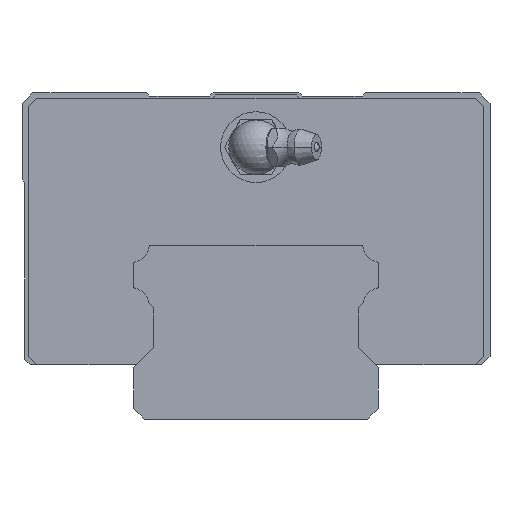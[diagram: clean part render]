
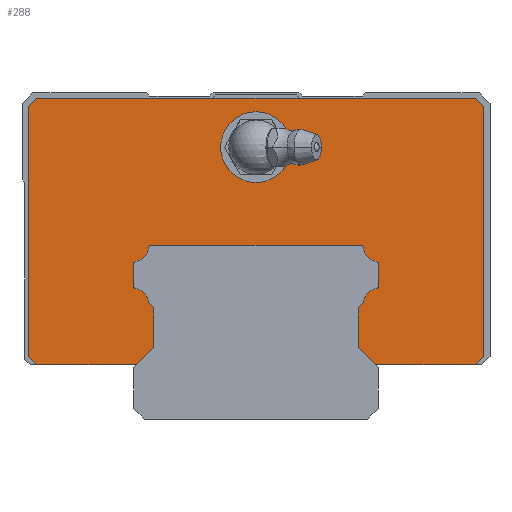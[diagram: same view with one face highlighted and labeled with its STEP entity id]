
A CAD part, front view. The second image highlights one B-rep face of the part: STEP entity #288.
In plain terms, the highlighted planar face has unit normal (0, -1, 0).
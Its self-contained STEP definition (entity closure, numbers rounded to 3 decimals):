
#288=ADVANCED_FACE('',(#639,#640),#641,.T.);
#639=FACE_BOUND('',#1163,.T.);
#640=FACE_OUTER_BOUND('',#1164,.T.);
#641=PLANE('',#1165);
#1163=EDGE_LOOP('',(#2296,#2297,#2298));
#1164=EDGE_LOOP('',(#2299,#2300,#2301,#2302,#2303,#2304,#2305,#2306,#2307,#2308,#2309,#2310,#2311,#2312,#2313,#2314,#2315,#2316,#2317,#2318,#2319,#2320,#2321,#2322,#2323,#2324,#2325,#2326));
#1165=AXIS2_PLACEMENT_3D('',#2327,#2328,#2329);
#2296=ORIENTED_EDGE('',*,*,#3566,.F.);
#2297=ORIENTED_EDGE('',*,*,#3567,.F.);
#2298=ORIENTED_EDGE('',*,*,#3325,.F.);
#2299=ORIENTED_EDGE('',*,*,#3568,.T.);
#2300=ORIENTED_EDGE('',*,*,#3569,.T.);
#2301=ORIENTED_EDGE('',*,*,#3558,.T.);
#2302=ORIENTED_EDGE('',*,*,#3570,.T.);
#2303=ORIENTED_EDGE('',*,*,#3571,.T.);
#2304=ORIENTED_EDGE('',*,*,#3572,.T.);
#2305=ORIENTED_EDGE('',*,*,#3545,.T.);
#2306=ORIENTED_EDGE('',*,*,#3480,.T.);
#2307=ORIENTED_EDGE('',*,*,#3573,.T.);
#2308=ORIENTED_EDGE('',*,*,#3574,.T.);
#2309=ORIENTED_EDGE('',*,*,#3560,.T.);
#2310=ORIENTED_EDGE('',*,*,#3575,.T.);
#2311=ORIENTED_EDGE('',*,*,#3576,.T.);
#2312=ORIENTED_EDGE('',*,*,#3577,.T.);
#2313=ORIENTED_EDGE('',*,*,#3578,.T.);
#2314=ORIENTED_EDGE('',*,*,#3579,.T.);
#2315=ORIENTED_EDGE('',*,*,#3580,.T.);
#2316=ORIENTED_EDGE('',*,*,#3485,.T.);
#2317=ORIENTED_EDGE('',*,*,#3581,.T.);
#2318=ORIENTED_EDGE('',*,*,#3498,.T.);
#2319=ORIENTED_EDGE('',*,*,#3582,.T.);
#2320=ORIENTED_EDGE('',*,*,#3583,.T.);
#2321=ORIENTED_EDGE('',*,*,#3584,.T.);
#2322=ORIENTED_EDGE('',*,*,#3585,.T.);
#2323=ORIENTED_EDGE('',*,*,#3586,.T.);
#2324=ORIENTED_EDGE('',*,*,#3587,.T.);
#2325=ORIENTED_EDGE('',*,*,#3588,.T.);
#2326=ORIENTED_EDGE('',*,*,#3534,.T.);
#2327=CARTESIAN_POINT('',(0.,-34.25,99.3));
#2328=DIRECTION('',(0.0,-1.0,0.0));
#2329=DIRECTION('',(0.0,0.0,-1.0));
#3325=EDGE_CURVE('',#3969,#3972,#3973,.T.);
#3480=EDGE_CURVE('',#4254,#4259,#4261,.T.);
#3485=EDGE_CURVE('',#4264,#4268,#4270,.T.);
#3498=EDGE_CURVE('',#4284,#4288,#4290,.T.);
#3534=EDGE_CURVE('',#4333,#4337,#4339,.T.);
#3545=EDGE_CURVE('',#4345,#4254,#4357,.T.);
#3558=EDGE_CURVE('',#4368,#4377,#4379,.T.);
#3560=EDGE_CURVE('',#4383,#4380,#4384,.T.);
#3566=EDGE_CURVE('',#4393,#3969,#4394,.T.);
#3567=EDGE_CURVE('',#3972,#4393,#4395,.T.);
#3568=EDGE_CURVE('',#4337,#4396,#4397,.T.);
#3569=EDGE_CURVE('',#4396,#4368,#4398,.T.);
#3570=EDGE_CURVE('',#4377,#4399,#4400,.T.);
#3571=EDGE_CURVE('',#4399,#4401,#4402,.T.);
#3572=EDGE_CURVE('',#4401,#4345,#4403,.T.);
#3573=EDGE_CURVE('',#4259,#4404,#4405,.T.);
#3574=EDGE_CURVE('',#4404,#4383,#4406,.T.);
#3575=EDGE_CURVE('',#4380,#4407,#4408,.T.);
#3576=EDGE_CURVE('',#4407,#4409,#4410,.T.);
#3577=EDGE_CURVE('',#4409,#4411,#4412,.T.);
#3578=EDGE_CURVE('',#4411,#4413,#4414,.T.);
#3579=EDGE_CURVE('',#4413,#4415,#4416,.T.);
#3580=EDGE_CURVE('',#4415,#4264,#4417,.T.);
#3581=EDGE_CURVE('',#4268,#4284,#4418,.T.);
#3582=EDGE_CURVE('',#4288,#4419,#4420,.T.);
#3583=EDGE_CURVE('',#4419,#4421,#4422,.T.);
#3584=EDGE_CURVE('',#4421,#4423,#4424,.T.);
#3585=EDGE_CURVE('',#4423,#4425,#4426,.T.);
#3586=EDGE_CURVE('',#4425,#4427,#4428,.T.);
#3587=EDGE_CURVE('',#4427,#4429,#4430,.T.);
#3588=EDGE_CURVE('',#4429,#4333,#4431,.T.);
#3969=VERTEX_POINT('',#5122);
#3972=VERTEX_POINT('',#5126);
#3973=CIRCLE('',#5127,6.5);
#4254=VERTEX_POINT('',#5507);
#4259=VERTEX_POINT('',#5514);
#4261=LINE('',#5517,#5518);
#4264=VERTEX_POINT('',#5521);
#4268=VERTEX_POINT('',#5526);
#4270=CIRCLE('',#5529,0.5);
#4284=VERTEX_POINT('',#5548);
#4288=VERTEX_POINT('',#5553);
#4290=CIRCLE('',#5556,0.5);
#4333=VERTEX_POINT('',#5610);
#4337=VERTEX_POINT('',#5616);
#4339=LINE('',#5619,#5620);
#4345=VERTEX_POINT('',#5628);
#4357=LINE('',#5646,#5647);
#4368=VERTEX_POINT('',#5663);
#4377=VERTEX_POINT('',#5677);
#4379=LINE('',#5680,#5681);
#4380=VERTEX_POINT('',#5682);
#4383=VERTEX_POINT('',#5686);
#4384=LINE('',#5687,#5688);
#4393=VERTEX_POINT('',#5702);
#4394=CIRCLE('',#5703,6.5);
#4395=CIRCLE('',#5704,6.5);
#4396=VERTEX_POINT('',#5705);
#4397=LINE('',#5706,#5707);
#4398=LINE('',#5708,#5709);
#4399=VERTEX_POINT('',#5710);
#4400=LINE('',#5711,#5712);
#4401=VERTEX_POINT('',#5713);
#4402=LINE('',#5714,#5715);
#4403=LINE('',#5716,#5717);
#4404=VERTEX_POINT('',#5718);
#4405=LINE('',#5719,#5720);
#4406=LINE('',#5721,#5722);
#4407=VERTEX_POINT('',#5723);
#4408=LINE('',#5724,#5725);
#4409=VERTEX_POINT('',#5726);
#4410=LINE('',#5727,#5728);
#4411=VERTEX_POINT('',#5729);
#4412=LINE('',#5730,#5731);
#4413=VERTEX_POINT('',#5732);
#4414=CIRCLE('',#5733,3.2);
#4415=VERTEX_POINT('',#5734);
#4416=CIRCLE('',#5735,0.5);
#4417=LINE('',#5736,#5737);
#4418=CIRCLE('',#5738,3.2);
#4419=VERTEX_POINT('',#5739);
#4420=LINE('',#5740,#5741);
#4421=VERTEX_POINT('',#5742);
#4422=CIRCLE('',#5743,0.5);
#4423=VERTEX_POINT('',#5744);
#4424=CIRCLE('',#5745,3.2);
#4425=VERTEX_POINT('',#5746);
#4426=CIRCLE('',#5747,0.5);
#4427=VERTEX_POINT('',#5748);
#4428=LINE('',#5749,#5750);
#4429=VERTEX_POINT('',#5751);
#4430=CIRCLE('',#5752,0.5);
#4431=CIRCLE('',#5753,3.2);
#5122=CARTESIAN_POINT('',(0.,-34.25,56.5));
#5126=CARTESIAN_POINT('',(0.,-34.25,43.5));
#5127=AXIS2_PLACEMENT_3D('',#6347,#6348,#6349);
#5507=CARTESIAN_POINT('',(-40.3,-34.25,59.0));
#5514=CARTESIAN_POINT('',(-41.8,-34.25,57.5));
#5517=CARTESIAN_POINT('',(-40.3,-34.25,59.0));
#5518=VECTOR('',#6608,1000.0);
#5521=CARTESIAN_POINT('',(-22.5,-34.25,28.486));
#5526=CARTESIAN_POINT('',(-22.113,-34.25,28.973));
#5529=AXIS2_PLACEMENT_3D('',#6617,#6618,#6619);
#5548=CARTESIAN_POINT('',(-19.681,-34.25,31.58));
#5553=CARTESIAN_POINT('',(-19.187,-34.25,32.0));
#5556=AXIS2_PLACEMENT_3D('',#6642,#6643,#6644);
#5610=CARTESIAN_POINT('',(19.674,-34.25,21.374));
#5616=CARTESIAN_POINT('',(18.75,-34.25,20.45));
#5619=CARTESIAN_POINT('',(48.8,-34.25,50.5));
#5620=VECTOR('',#6722,1000.0);
#5628=CARTESIAN_POINT('',(40.3,-34.25,59.0));
#5646=CARTESIAN_POINT('',(40.3,-34.25,59.0));
#5647=VECTOR('',#6737,1000.0);
#5663=CARTESIAN_POINT('',(22.0,-34.25,10.0));
#5677=CARTESIAN_POINT('',(40.3,-34.25,10.0));
#5680=CARTESIAN_POINT('',(-40.3,-34.25,10.0));
#5681=VECTOR('',#6752,1000.0);
#5682=CARTESIAN_POINT('',(-22.0,-34.25,10.0));
#5686=CARTESIAN_POINT('',(-40.3,-34.25,10.0));
#5687=CARTESIAN_POINT('',(-40.3,-34.25,10.0));
#5688=VECTOR('',#6754,1000.0);
#5702=CARTESIAN_POINT('',(6.5,-34.25,50.0));
#5703=AXIS2_PLACEMENT_3D('',#6760,#6761,#6762);
#5704=AXIS2_PLACEMENT_3D('',#6763,#6764,#6765);
#5705=CARTESIAN_POINT('',(18.75,-34.25,13.25));
#5706=CARTESIAN_POINT('',(18.75,-34.25,99.3));
#5707=VECTOR('',#6766,1000.0);
#5708=CARTESIAN_POINT('',(-33.65,-34.25,65.65));
#5709=VECTOR('',#6767,1000.0);
#5710=CARTESIAN_POINT('',(41.8,-34.25,11.5));
#5711=CARTESIAN_POINT('',(40.3,-34.25,10.0));
#5712=VECTOR('',#6768,1000.0);
#5713=CARTESIAN_POINT('',(41.8,-34.25,57.5));
#5714=CARTESIAN_POINT('',(41.8,-34.25,11.5));
#5715=VECTOR('',#6769,1000.0);
#5716=CARTESIAN_POINT('',(41.8,-34.25,57.5));
#5717=VECTOR('',#6770,1000.0);
#5718=CARTESIAN_POINT('',(-41.8,-34.25,11.5));
#5719=CARTESIAN_POINT('',(-41.8,-34.25,57.5));
#5720=VECTOR('',#6771,1000.0);
#5721=CARTESIAN_POINT('',(-41.8,-34.25,11.5));
#5722=VECTOR('',#6772,1000.0);
#5723=CARTESIAN_POINT('',(-18.75,-34.25,13.25));
#5724=CARTESIAN_POINT('',(33.65,-34.25,65.65));
#5725=VECTOR('',#6773,1000.0);
#5726=CARTESIAN_POINT('',(-18.75,-34.25,20.45));
#5727=CARTESIAN_POINT('',(-18.75,-34.25,99.3));
#5728=VECTOR('',#6774,1000.0);
#5729=CARTESIAN_POINT('',(-19.674,-34.25,21.374));
#5730=CARTESIAN_POINT('',(-48.8,-34.25,50.5));
#5731=VECTOR('',#6775,1000.0);
#5732=CARTESIAN_POINT('',(-22.113,-34.25,24.027));
#5733=AXIS2_PLACEMENT_3D('',#6776,#6777,#6778);
#5734=CARTESIAN_POINT('',(-22.5,-34.25,24.514));
#5735=AXIS2_PLACEMENT_3D('',#6779,#6780,#6781);
#5736=CARTESIAN_POINT('',(-22.5,-34.25,99.3));
#5737=VECTOR('',#6782,1000.0);
#5738=AXIS2_PLACEMENT_3D('',#6783,#6784,#6785);
#5739=CARTESIAN_POINT('',(19.187,-34.25,32.0));
#5740=CARTESIAN_POINT('',(0.,-34.25,32.0));
#5741=VECTOR('',#6786,1000.0);
#5742=CARTESIAN_POINT('',(19.681,-34.25,31.58));
#5743=AXIS2_PLACEMENT_3D('',#6787,#6788,#6789);
#5744=CARTESIAN_POINT('',(22.113,-34.25,28.973));
#5745=AXIS2_PLACEMENT_3D('',#6790,#6791,#6792);
#5746=CARTESIAN_POINT('',(22.5,-34.25,28.486));
#5747=AXIS2_PLACEMENT_3D('',#6793,#6794,#6795);
#5748=CARTESIAN_POINT('',(22.5,-34.25,24.514));
#5749=CARTESIAN_POINT('',(22.5,-34.25,99.3));
#5750=VECTOR('',#6796,1000.0);
#5751=CARTESIAN_POINT('',(22.113,-34.25,24.027));
#5752=AXIS2_PLACEMENT_3D('',#6797,#6798,#6799);
#5753=AXIS2_PLACEMENT_3D('',#6800,#6801,#6802);
#6347=CARTESIAN_POINT('',(0.,-34.25,50.0));
#6348=DIRECTION('',(0.0,-1.0,0.0));
#6349=DIRECTION('',(1.0,0.0,0.0));
#6608=DIRECTION('',(-0.707,0.0,-0.707));
#6617=CARTESIAN_POINT('',(-22.0,-34.25,28.486));
#6618=DIRECTION('',(0.0,1.0,0.0));
#6619=DIRECTION('',(0.0,0.0,-1.0));
#6642=CARTESIAN_POINT('',(-19.187,-34.25,31.5));
#6643=DIRECTION('',(0.0,1.0,0.0));
#6644=DIRECTION('',(0.0,0.0,-1.0));
#6722=DIRECTION('',(-0.707,0.0,-0.707));
#6737=DIRECTION('',(-1.0,0.0,0.));
#6752=DIRECTION('',(1.0,0.0,0.0));
#6754=DIRECTION('',(1.0,0.0,0.0));
#6760=CARTESIAN_POINT('',(0.,-34.25,50.0));
#6761=DIRECTION('',(0.0,-1.0,0.0));
#6762=DIRECTION('',(1.0,0.0,0.0));
#6763=CARTESIAN_POINT('',(0.,-34.25,50.0));
#6764=DIRECTION('',(0.0,-1.0,0.0));
#6765=DIRECTION('',(1.0,0.0,0.0));
#6766=DIRECTION('',(0.0,0.0,-1.0));
#6767=DIRECTION('',(0.707,0.0,-0.707));
#6768=DIRECTION('',(0.707,0.0,0.707));
#6769=DIRECTION('',(0.0,0.0,1.0));
#6770=DIRECTION('',(-0.707,0.0,0.707));
#6771=DIRECTION('',(0.0,0.0,-1.0));
#6772=DIRECTION('',(0.707,0.0,-0.707));
#6773=DIRECTION('',(0.707,0.0,0.707));
#6774=DIRECTION('',(0.0,0.0,1.0));
#6775=DIRECTION('',(-0.707,0.0,0.707));
#6776=CARTESIAN_POINT('',(-22.84,-34.25,20.91));
#6777=DIRECTION('',(0.0,-1.0,0.0));
#6778=DIRECTION('',(0.0,0.0,-1.0));
#6779=CARTESIAN_POINT('',(-22.0,-34.25,24.514));
#6780=DIRECTION('',(0.0,1.0,0.0));
#6781=DIRECTION('',(0.0,0.0,-1.0));
#6782=DIRECTION('',(0.0,0.0,1.0));
#6783=CARTESIAN_POINT('',(-22.84,-34.25,32.09));
#6784=DIRECTION('',(0.0,-1.0,0.0));
#6785=DIRECTION('',(0.0,0.0,-1.0));
#6786=DIRECTION('',(1.0,0.0,0.0));
#6787=CARTESIAN_POINT('',(19.187,-34.25,31.5));
#6788=DIRECTION('',(0.0,1.0,0.0));
#6789=DIRECTION('',(0.0,0.0,-1.0));
#6790=CARTESIAN_POINT('',(22.84,-34.25,32.09));
#6791=DIRECTION('',(0.0,-1.0,0.0));
#6792=DIRECTION('',(0.0,0.0,-1.0));
#6793=CARTESIAN_POINT('',(22.0,-34.25,28.486));
#6794=DIRECTION('',(0.0,1.0,0.0));
#6795=DIRECTION('',(0.0,0.0,-1.0));
#6796=DIRECTION('',(0.0,0.0,-1.0));
#6797=CARTESIAN_POINT('',(22.0,-34.25,24.514));
#6798=DIRECTION('',(0.0,1.0,0.0));
#6799=DIRECTION('',(0.0,0.0,-1.0));
#6800=CARTESIAN_POINT('',(22.84,-34.25,20.91));
#6801=DIRECTION('',(0.0,-1.0,0.0));
#6802=DIRECTION('',(0.0,0.0,-1.0));
